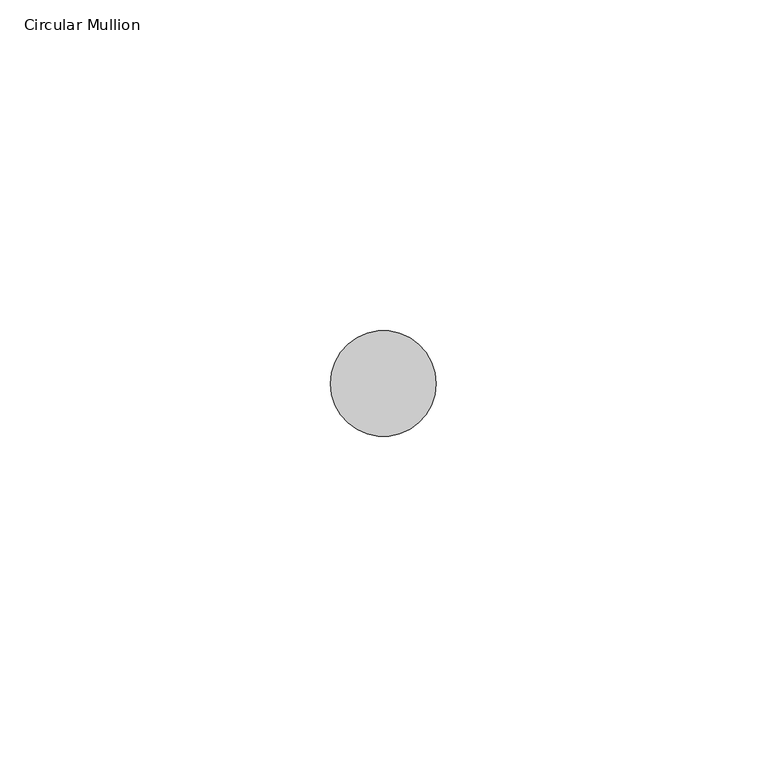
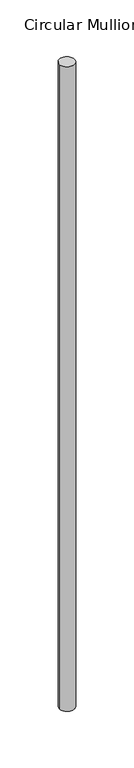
"""IFC4 building model written with IfcOpenShell, lengths in millimetres: member geometry, Circular Mullion : ARQ_HERR_16mm."""

from ifc_helpers import new_model, si_unit, point, frame, origin, origin_2d, place, context, project, spatial, circle_curve, trimmed, segment, composite_curve, outline, extrude, source, transform, mapped, element, save


def circular_mullion_aeaf9c3c(model_context):
    return source(origin(), model_context, "Body", "SweptSolid", [
        extrude(outline(composite_curve([segment(trimmed(circle_curve(origin_2d(), 8.0), [point((8.0, 0.0))], [point((-8.0, 0.0))], False, "CARTESIAN"), True, "CONTINUOUS"), segment(trimmed(circle_curve(origin_2d(), 8.0), [point((-8.0, 0.0))], [point((8.0, 0.0))], False, "CARTESIAN"), True, "CONTINUOUS")], self_intersect=False)), frame((0.0, 0.0, -717.3243077), z_axis=(0.0, 0.0, 1.0), x_axis=(1.0, 0.0, 0.0)), (0.0, 0.0, 1.0), 717.3243077),
    ])


if __name__ == "__main__":
    model = new_model("IFC4")
    model_context = context("Model", 3, world=origin())
    ifc_project = project(units=[si_unit("LENGTHUNIT", "METRE", prefix="MILLI")], contexts=[model_context])
    site = spatial("IfcSite", under=ifc_project)
    building = spatial("IfcBuilding", under=site)
    placement = place(None, origin())
    circular_mullion_shape = circular_mullion_aeaf9c3c(model_context)
    element("IfcMember", 1, ObjectType="Circular Mullion : ARQ_HERR_16mm", at=placement, inside=building, context=model_context, shape_type="MappedRepresentation", body=[
        mapped(circular_mullion_shape, transform((0.0, 0.0, 0.0), x_axis=(1.0, 0.0, 0.0), y_axis=(0.0, 1.0, 0.0), z_axis=(0.0, 0.0, 1.0))),
    ])
    save(model, "model.ifc")
